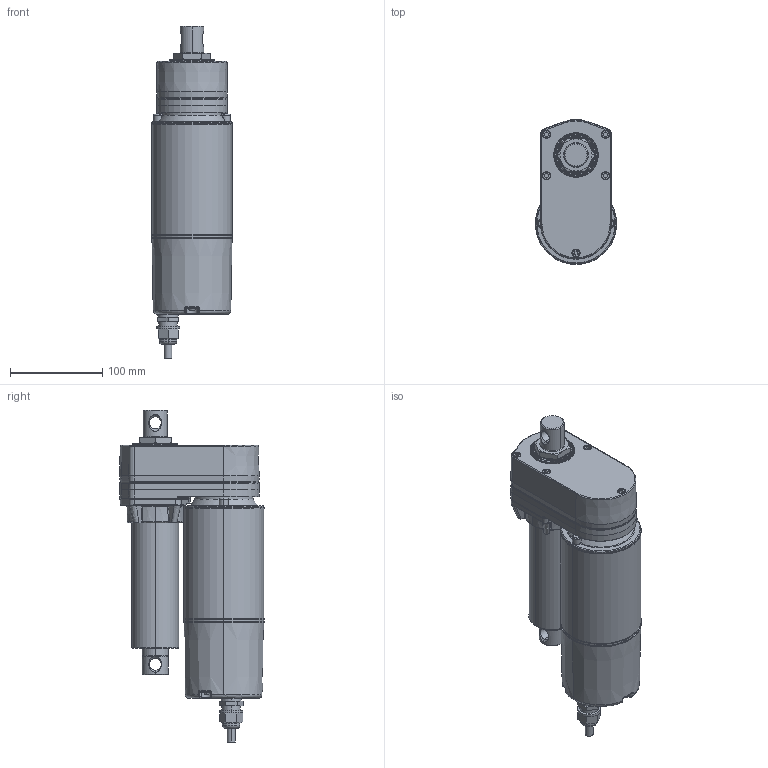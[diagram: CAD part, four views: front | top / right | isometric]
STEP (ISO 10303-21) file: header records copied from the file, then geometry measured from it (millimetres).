
FILE_DESCRIPTION (( 'STEP AP203' ), '1' );
FILE_NAME ('AC-ACME-Standard-4inch.STEP', '2024-12-04T00:11:11', ( '' ), ( '' ), 'SwSTEP 2.0', 'SolidWorks 2023', '' );
FILE_SCHEMA (( 'CONFIG_CONTROL_DESIGN' ));
Length unit declared in the file: millimetre
Products named in the file (3): AC-ACME-Standard-4inch; -1; -2
Assembly tree (2 placements, depth 2):
  AC-ACME-Standard-4inch
    -1
    -2
Bounding box: 88 x 157.08 x 360.4 mm (x, y, z)
Volume: 2282865.7 mm3; surface area: 175403.4 mm2
Topology: 2 solids, 2 shells, 1055 faces, 2705 edges, 1686 vertices
Faces by surface type: plane 567, cylinder 210, torus 114, bspline 106, cone 52, sphere 6
Entity records: 35897 total; most frequent: CARTESIAN_POINT 12238, ORIENTED_EDGE 5394, DIRECTION 4476, EDGE_CURVE 2697, AXIS2_PLACEMENT_3D 1714, VERTEX_POINT 1686, EDGE_LOOP 1099, ADVANCED_FACE 1055
